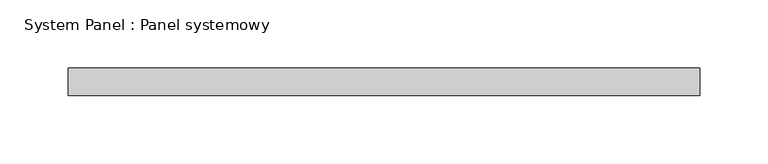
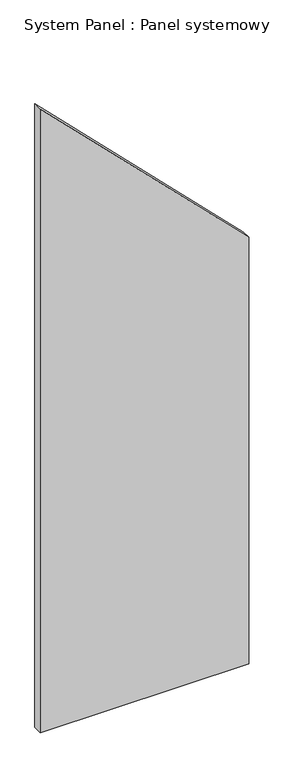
"""IFC4 building model written with IfcOpenShell, lengths in millimetres: plate geometry, System Panel : Panel systemowy."""

from ifc_helpers import new_model, si_unit, frame, origin, place, context, project, spatial, polyline, outline, extrude, source, transform, mapped, element, save


def system_panel_panel_systemowy_036eaa5d(model_context):
    return source(origin(), model_context, "Body", "SweptSolid", [
        extrude(outline(polyline([(0.0, -231.25), (0.0, 231.25), (1000.7359313, 231.25), (1463.2359314, -231.25), (0.0, -231.25)])), frame((0.0, -10.0, 0.0), z_axis=(0.0, 1.0, 0.0), x_axis=(0.0, 0.0, 1.0)), (0.0, 0.0, 1.0), 20.0),
    ])


if __name__ == "__main__":
    model = new_model("IFC4")
    model_context = context("Model", 3, world=origin())
    ifc_project = project(units=[si_unit("LENGTHUNIT", "METRE", prefix="MILLI")], contexts=[model_context])
    site = spatial("IfcSite", under=ifc_project)
    building = spatial("IfcBuilding", under=site)
    placement = place(None, origin())
    system_panel_panel_systemowy_shape = system_panel_panel_systemowy_036eaa5d(model_context)
    element("IfcPlate", 1, ObjectType="System Panel : Panel systemowy", at=placement, inside=building, context=model_context, shape_type="MappedRepresentation", body=[
        mapped(system_panel_panel_systemowy_shape, transform((0.0, 0.0, 0.0), x_axis=(1.0, 0.0, 0.0), y_axis=(0.0, 1.0, 0.0), z_axis=(0.0, 0.0, 1.0))),
    ])
    save(model, "model.ifc")
